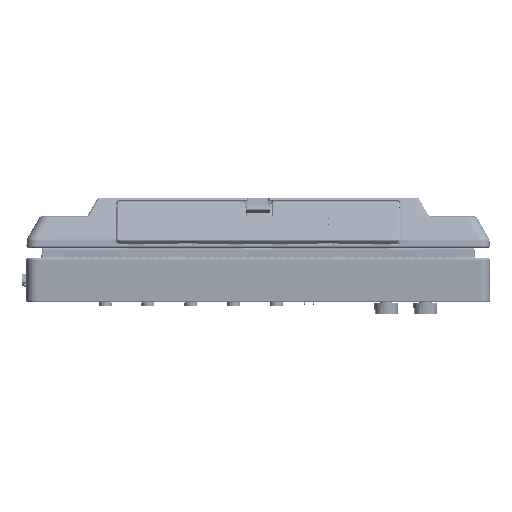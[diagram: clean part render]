
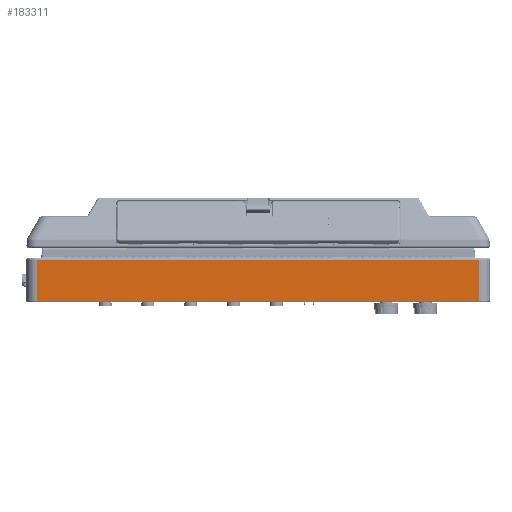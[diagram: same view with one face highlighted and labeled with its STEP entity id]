
A CAD part, front view. The second image highlights one B-rep face of the part: STEP entity #183311.
In plain terms, the highlighted planar face has unit normal (0, -1, 0).
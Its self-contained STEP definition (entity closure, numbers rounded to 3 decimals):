
#46853=DIRECTION('',(1.,0.,0.));
#46854=VECTOR('',#46853,328.);
#46855=CARTESIAN_POINT('',(-164.,-202.865,-2.15));
#46856=LINE('',#46855,#46854);
#53123=DIRECTION('',(0.,0.,1.));
#53124=VECTOR('',#53123,30.4);
#53125=CARTESIAN_POINT('',(164.,-202.865,-2.15));
#53126=LINE('',#53125,#53124);
#53144=DIRECTION('',(0.,0.,-1.));
#53145=VECTOR('',#53144,30.4);
#53146=CARTESIAN_POINT('',(-164.,-202.865,28.25));
#53147=LINE('',#53146,#53145);
#53182=DIRECTION('',(-1.,0.,0.));
#53183=VECTOR('',#53182,328.);
#53184=CARTESIAN_POINT('',(164.,-202.865,28.25));
#53185=LINE('',#53184,#53183);
#162693=CARTESIAN_POINT('',(164.,-202.865,-2.15));
#162694=VERTEX_POINT('',#162693);
#162695=CARTESIAN_POINT('',(-164.,-202.865,-2.15));
#162696=VERTEX_POINT('',#162695);
#164305=CARTESIAN_POINT('',(164.,-202.865,28.25));
#164306=VERTEX_POINT('',#164305);
#164307=CARTESIAN_POINT('',(-164.,-202.865,28.25));
#164308=VERTEX_POINT('',#164307);
#183298=CARTESIAN_POINT('',(0.,-202.865,13.05));
#183299=DIRECTION('',(0.,1.,0.));
#183300=DIRECTION('',(-1.,0.,0.));
#183301=AXIS2_PLACEMENT_3D('',#183298,#183299,#183300);
#183302=PLANE('',#183301);
#183303=ORIENTED_EDGE('',*,*,#179210,.F.);
#183305=ORIENTED_EDGE('',*,*,#183304,.F.);
#183307=ORIENTED_EDGE('',*,*,#183306,.F.);
#183308=ORIENTED_EDGE('',*,*,#183283,.F.);
#183309=EDGE_LOOP('',(#183303,#183305,#183307,#183308));
#183310=FACE_OUTER_BOUND('',#183309,.F.);
#183311=ADVANCED_FACE('',(#183310),#183302,.F.);
#179210=EDGE_CURVE('',#162696,#162694,#46856,.T.);
#183283=EDGE_CURVE('',#162694,#164306,#53126,.T.);
#183304=EDGE_CURVE('',#164308,#162696,#53147,.T.);
#183306=EDGE_CURVE('',#164306,#164308,#53185,.T.);
